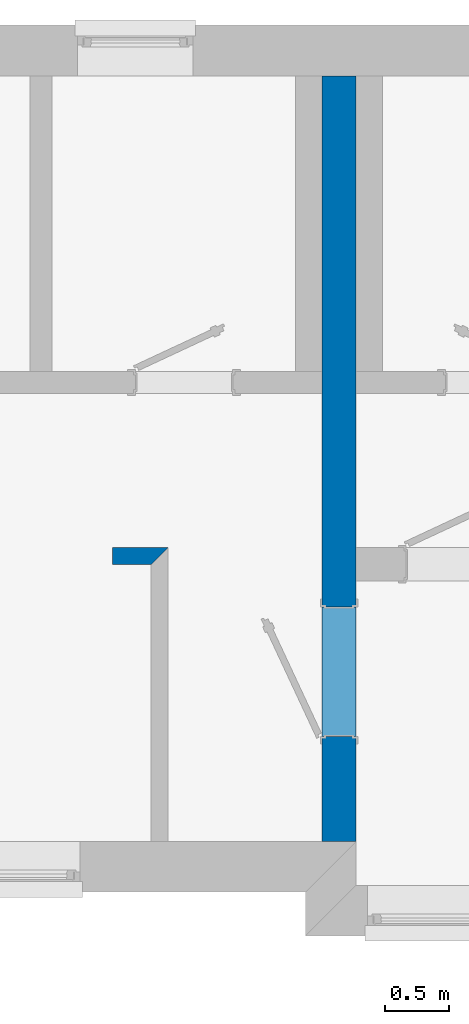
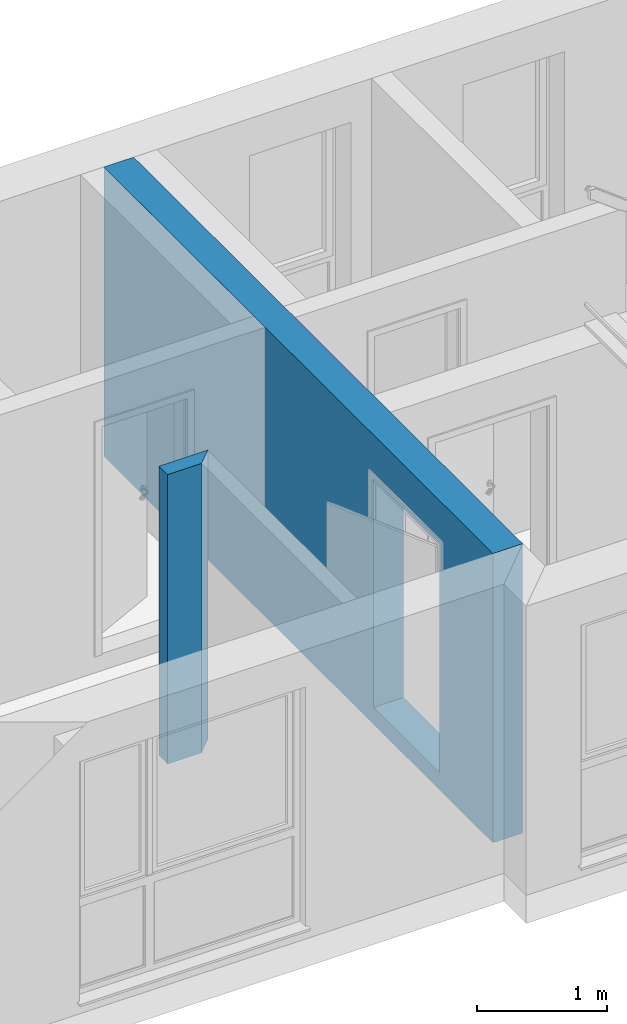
# One storey, part 5 of 16: 2 walls, 1 opening.
"""IFC2X3 building model written with IfcOpenShell, lengths in millimetres."""

from ifc_helpers import new_model, si_unit, frame, origin_with_axes, place, context, project, spatial, faceted_brep, material, layer, layer_set, layer_usage, element, save


model = new_model("IFC2X3")

# Units and contexts
model_context = context("Model", 3, world=origin_with_axes())
ifc_project = project(units=[si_unit("LENGTHUNIT", "METRE", prefix="MILLI")], contexts=[model_context])

# Site, building, storey
site_placement = place(None, origin_with_axes())
site = spatial("IfcSite", under=ifc_project, at=site_placement, Name="Site", CompositionType="ELEMENT")
building_placement = place(site_placement, origin_with_axes())
building = spatial("IfcBuilding", under=site, at=building_placement, Name="?", CompositionType="ELEMENT")
storey_placement = place(building_placement, frame((0.0, 0.0, 2969.0), z_axis=(0.0, 0.0, 1.0), x_axis=(1.0, 0.0, 0.0)))
storey = spatial("IfcBuildingStorey", under=building, at=storey_placement, Name="Obergeschoß 1", CompositionType="ELEMENT", Elevation=2969.0)

# Wall, opening
ifc_material = material(Name="Material_IW")
ifc_layer_1 = layer(ifc_material, 264.0, ventilated=False)
ifc_layer_set_1 = layer_set([ifc_layer_1], Name="MaterialLayerSet_IW")
ifc_layer_usage_1 = layer_usage(ifc_layer_set_1, "AXIS2", "NEGATIVE", 132.0)
wall_1_placement = place(storey_placement, frame((9763.0, -6361.0, 0.0), z_axis=(0.0, 0.0, 1.0), x_axis=(0.0, 1.0, 0.0)))
wall_1 = element("IfcWall", 1, at=wall_1_placement, inside=storey, material=ifc_layer_usage_1, Name="IW-22", context=model_context, shape_type="Brep", body=[
    faceted_brep([(5966.0, -132.0, 0.0), (5966.0, -132.0, 2707.0), (0.0, -132.0, 2707.0), (0.0, -132.0, 0.0), (5966.0, 132.0, 0.0), (5966.0, 132.0, 2707.0), (5966.0, -132.0, 2707.0), (5966.0, -132.0, 0.0), (0.0, 132.0, 0.0), (0.0, 132.0, 2707.0), (5966.0, 132.0, 2707.0), (5966.0, 132.0, 0.0), (0.0, -132.0, 0.0), (0.0, -132.0, 2707.0), (0.0, 132.0, 2707.0), (0.0, 132.0, 0.0), (0.0, -132.0, 0.0), (0.0, 132.0, 0.0), (5966.0, 132.0, 0.0), (5966.0, -132.0, 0.0), (0.0, -132.0, 2707.0), (5966.0, -132.0, 2707.0), (5966.0, 132.0, 2707.0), (0.0, 132.0, 2707.0)], [[[0, 1, 2, 3]], [[4, 5, 6, 7]], [[8, 9, 10, 11]], [[12, 13, 14, 15]], [[16, 17, 18, 19]], [[20, 21, 22, 23]]]),
])
opening_placement = place(wall_1_placement, frame((818.0, 0.0, 160.0), z_axis=(0.0, 0.0, 1.0), x_axis=(1.0, 0.0, 0.0)))
element("IfcOpeningElement", 2, at=opening_placement, cuts=wall_1, Name="IW-22|IT08", context=model_context, shape_type="Brep", body=[
    faceted_brep([(0.0, 142.0, 0.0), (0.0, 142.0, 2135.0), (1010.0, 142.0, 2135.0), (1010.0, 142.0, 0.0), (0.0, -142.0, 0.0), (0.0, -142.0, 2135.0), (0.0, 142.0, 2135.0), (0.0, 142.0, 0.0), (1010.0, -142.0, 0.0), (0.0, -142.0, 0.0), (0.0, 142.0, 0.0), (1010.0, 142.0, 0.0), (1010.0, -142.0, 2135.0), (1010.0, -142.0, 0.0), (1010.0, 142.0, 0.0), (1010.0, 142.0, 2135.0), (0.0, -142.0, 2135.0), (1010.0, -142.0, 2135.0), (1010.0, 142.0, 2135.0), (0.0, 142.0, 2135.0), (0.0, -142.0, 0.0), (1010.0, -142.0, 0.0), (1010.0, -142.0, 2135.0), (0.0, -142.0, 2135.0)], [[[0, 1, 2, 3]], [[4, 5, 6, 7]], [[8, 9, 10, 11]], [[12, 13, 14, 15]], [[16, 17, 18, 19]], [[20, 21, 22, 23]]]),
])

# Wall
ifc_layer_2 = layer(ifc_material, 132.0, ventilated=False)
ifc_layer_set_2 = layer_set([ifc_layer_2], Name="MaterialLayerSet_IW")
ifc_layer_usage_2 = layer_usage(ifc_layer_set_2, "AXIS2", "NEGATIVE", 66.0)
wall_2_placement = place(storey_placement, frame((8365.0, -4135.0, 0.0), z_axis=(0.0, 0.0, 1.0), x_axis=(-1.0, 0.0, 0.0)))
element("IfcWall", 3, at=wall_2_placement, inside=storey, material=ifc_layer_usage_2, Name="IW-36", context=model_context, shape_type="Brep", body=[
    faceted_brep([(366.0, -66.0, 0.0), (366.0, -66.0, 2707.0), (-65.9999999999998, -66.0, 2707.0), (-65.9999999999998, -66.0, 0.0), (366.0, 66.0, 0.0), (366.0, 66.0, 2707.0), (366.0, -66.0, 2707.0), (366.0, -66.0, 0.0), (66.0000000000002, 66.0, 0.0), (66.0000000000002, 66.0, 2707.0), (366.0, 66.0, 2707.0), (366.0, 66.0, 0.0), (-65.9999999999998, -66.0, 0.0), (-65.9999999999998, -66.0, 2707.0), (66.0000000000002, 66.0, 2707.0), (66.0000000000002, 66.0, 0.0), (-65.9999999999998, -66.0, 0.0), (66.0000000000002, 66.0, 0.0), (366.0, 66.0, 0.0), (366.0, -66.0, 0.0), (-65.9999999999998, -66.0, 2707.0), (366.0, -66.0, 2707.0), (366.0, 66.0, 2707.0), (66.0000000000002, 66.0, 2707.0)], [[[0, 1, 2, 3]], [[4, 5, 6, 7]], [[8, 9, 10, 11]], [[12, 13, 14, 15]], [[16, 17, 18, 19]], [[20, 21, 22, 23]]]),
])

save(model, "model.ifc")
